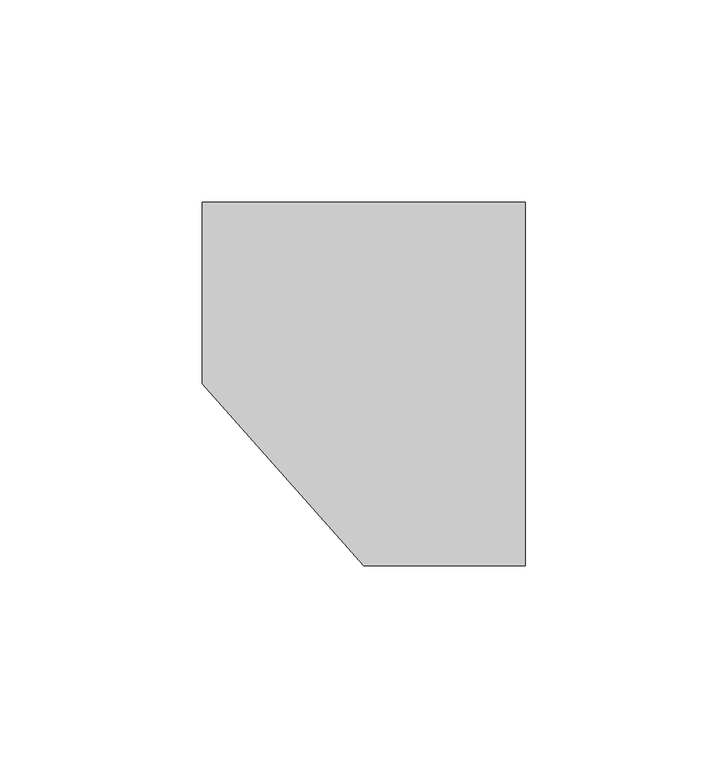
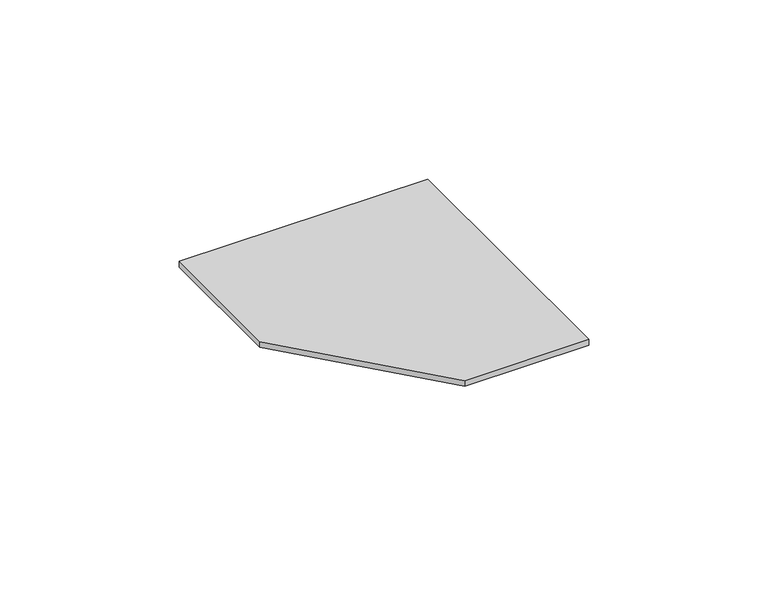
"""IFC4 building model written with IfcOpenShell, lengths in millimetres: duct fitting geometry, DLP Сепаратор для углов : DLP Сепаратор для углов."""

from ifc_helpers import new_model, si_unit, origin, origin_with_axes, place, context, project, spatial, polyline, outline, extrude, source, transform, mapped, element, save


def duct_fitting_17d0504c(model_context):
    return source(origin(), model_context, "Body", "SweptSolid", [
        extrude(outline(polyline([(-40.0, 0.0), (-40.0, 45.0), (40.0, 45.0), (40.0, -45.0), (0.0, -45.0), (-40.0, 0.0)])), origin_with_axes(), (0.0, 0.0, 1.0), 2.0),
    ])


if __name__ == "__main__":
    model = new_model("IFC4")
    model_context = context("Model", 3, world=origin())
    ifc_project = project(units=[si_unit("LENGTHUNIT", "METRE", prefix="MILLI")], contexts=[model_context])
    site = spatial("IfcSite", under=ifc_project)
    building = spatial("IfcBuilding", under=site)
    placement = place(None, origin())
    duct_fitting_shape = duct_fitting_17d0504c(model_context)
    element("IfcDuctFitting", 1, ObjectType="DLP Сепаратор для углов : DLP Сепаратор для углов", at=placement, inside=building, context=model_context, shape_type="MappedRepresentation", body=[
        mapped(duct_fitting_shape, transform((0.0, 0.0, 0.0), x_axis=(1.0, 0.0, 0.0), y_axis=(0.0, 1.0, 0.0), z_axis=(0.0, 0.0, 1.0))),
    ])
    save(model, "model.ifc")
